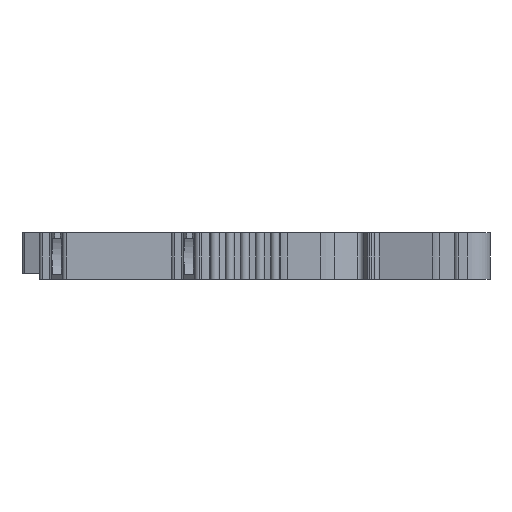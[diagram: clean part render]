
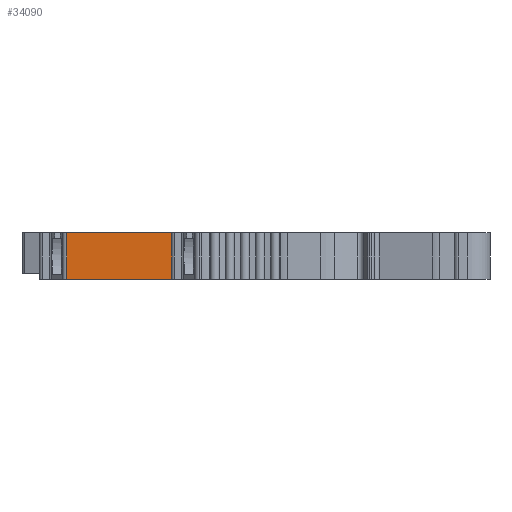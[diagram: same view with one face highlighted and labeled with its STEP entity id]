
A CAD part, left-side view. The second image highlights one B-rep face of the part: STEP entity #34090.
In plain terms, the highlighted planar face has unit normal (-0.999, 0.035, 0).
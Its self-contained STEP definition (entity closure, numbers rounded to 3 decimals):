
#9680=CARTESIAN_POINT('',(-19.288,43.495,-5.2));
#9690=VERTEX_POINT('',#9680);
#9720=CARTESIAN_POINT('',(-19.7,31.7,-5.2));
#9730=DIRECTION('',(0.035,0.999,
0.));
#9740=VECTOR('',#9730,1.);
#9750=LINE('',#9720,#9740);
#9760=CARTESIAN_POINT('',(-19.7,31.7,-5.2));
#9770=VERTEX_POINT('',#9760);
#9780=EDGE_CURVE('',#9770,#9690,#9750,.T.);
#15190=CARTESIAN_POINT('',(-19.7,31.7,
0.));
#15200=VERTEX_POINT('',#15190);
#15230=CARTESIAN_POINT('',(-19.288,43.495,
0.));
#15240=DIRECTION('',(-0.035,-0.999,0.));
#15250=VECTOR('',#15240,1.);
#15260=LINE('',#15230,#15250);
#15270=CARTESIAN_POINT('',(-19.288,43.495,
0.));
#15280=VERTEX_POINT('',#15270);
#15290=EDGE_CURVE('',#15280,#15200,#15260,.T.);
#33820=CARTESIAN_POINT('',(-19.7,31.7,
0.));
#33830=DIRECTION('',(0.,0.,-1.));
#33840=VECTOR('',#33830,1.);
#33850=LINE('',#33820,#33840);
#33860=EDGE_CURVE('',#15200,#9770,#33850,.T.);
#33930=CARTESIAN_POINT('',(-19.4,40.295,
-7.4));
#33940=DIRECTION('',(0.999,-0.035,
0.));
#33950=DIRECTION('',(0.,0.,-1.));
#33960=AXIS2_PLACEMENT_3D('',#33930,#33940,#33950);
#33970=PLANE('',#33960);
#33980=ORIENTED_EDGE('',*,*,#15290,.F.);
#33990=ORIENTED_EDGE('',*,*,#33860,.F.);
#34000=ORIENTED_EDGE('',*,*,#9780,.F.);
#34010=CARTESIAN_POINT('',(-19.288,43.495,-5.2));
#34020=DIRECTION('',(0.,0.,1.));
#34030=VECTOR('',#34020,1.);
#34040=LINE('',#34010,#34030);
#34050=EDGE_CURVE('',#9690,#15280,#34040,.T.);
#34060=ORIENTED_EDGE('',*,*,#34050,.F.);
#34070=EDGE_LOOP('',(#34060,#34000,#33990,#33980));
#34080=FACE_OUTER_BOUND('',#34070,.T.);
#34090=ADVANCED_FACE('',(#34080),#33970,.F.);
